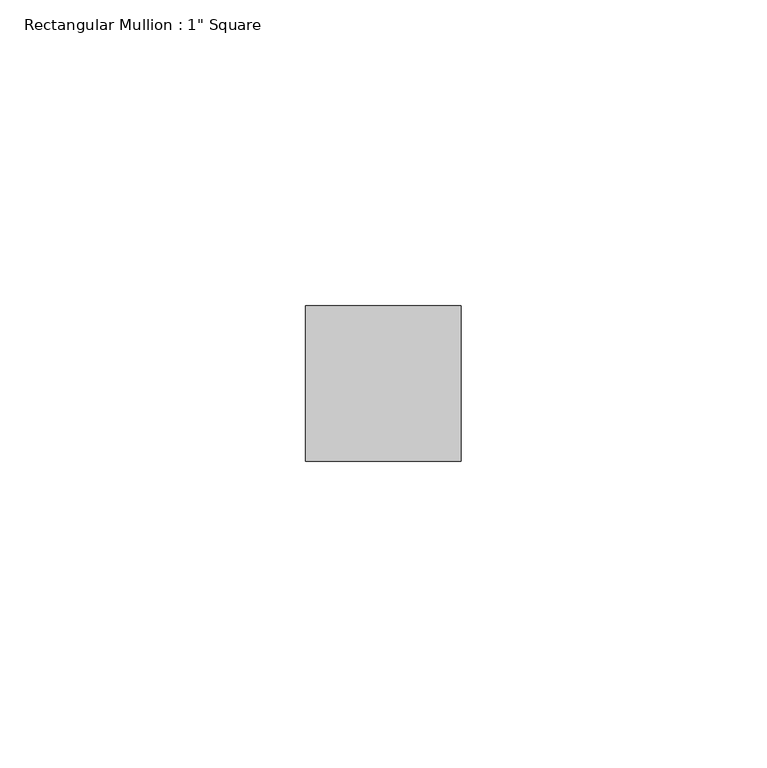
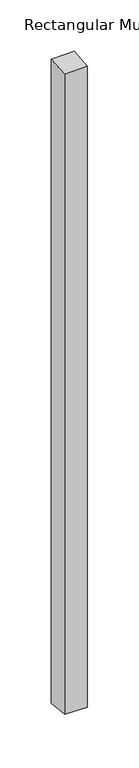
"""IFC4 building model written with IfcOpenShell, lengths in millimetres: member geometry."""

from ifc_helpers import new_model, si_unit, origin, place, context, project, spatial, faceted_brep, source, transform, mapped, element, save


def member_e077157f(model_context):
    return source(origin(), model_context, "Body", "Brep", [
        faceted_brep([(-25.4, 12.7, 0.6196939), (0.0, 12.7, 1.040933), (0.0, 12.7, -763.040933), (-25.4, 12.7, -762.6196939), (-25.4, -12.7, -1.4621721), (-25.4, -12.7, -760.5378279), (0.0, -12.7, -1.040933), (0.0, -12.7, -760.959067)], [[[0, 1, 2, 3]], [[4, 0, 3, 5]], [[6, 4, 5, 7]], [[1, 6, 7, 2]], [[1, 0, 4, 6]], [[2, 7, 5, 3]]]),
    ])


if __name__ == "__main__":
    model = new_model("IFC4")
    model_context = context("Model", 3, world=origin())
    ifc_project = project(units=[si_unit("LENGTHUNIT", "METRE", prefix="MILLI")], contexts=[model_context])
    site = spatial("IfcSite", under=ifc_project)
    building = spatial("IfcBuilding", under=site)
    placement = place(None, origin())
    member_shape = member_e077157f(model_context)
    element("IfcMember", 1, ObjectType="Rectangular Mullion : 1\" Square", at=placement, inside=building, context=model_context, shape_type="MappedRepresentation", body=[
        mapped(member_shape, transform((0.0, 0.0, 0.0), x_axis=(1.0, 0.0, 0.0), y_axis=(0.0, 1.0, 0.0), z_axis=(0.0, 0.0, 1.0))),
    ])
    save(model, "model.ifc")
